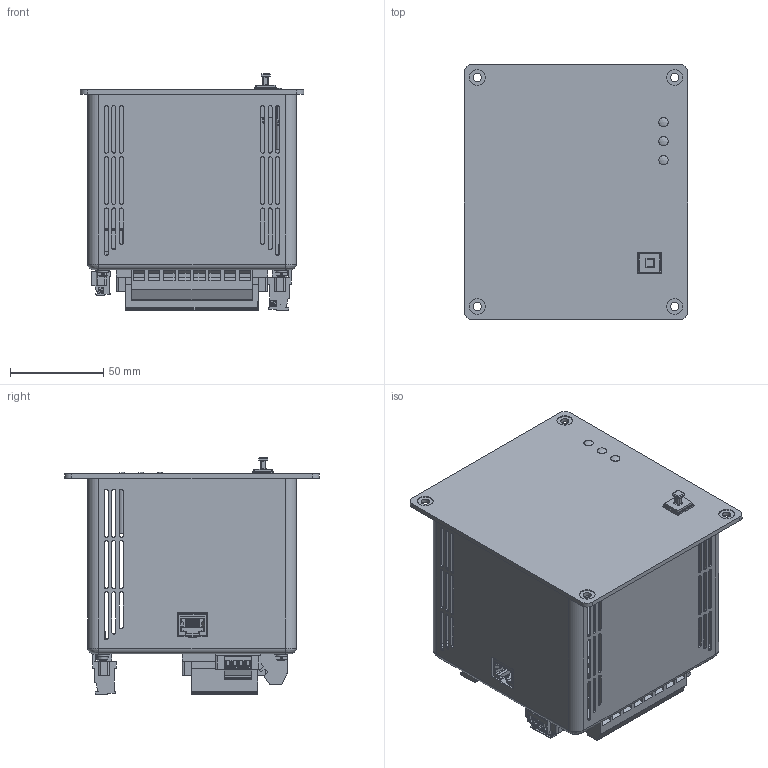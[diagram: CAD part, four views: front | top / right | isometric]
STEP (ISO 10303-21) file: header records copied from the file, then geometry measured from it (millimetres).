
FILE_DESCRIPTION(/* description */ (''),/* implementation_level */ '2;1');
FILE_NAME(/* name */ 'D:\WorkIMT\Project IMT\ЛЮТИК\ЛЮТИК Дешунт\3D на сайт\LUTIK 3D.stp',/* time_stamp */ '2024-05-22T14:00:00+03:00',/* author */ ('Admin'),/* organization */ (''),/* preprocessor_version */ 'ST-DEVELOPER v17.2',/* originating_system */ 'Autodesk Inventor 2019',/* authorisation */ '');
FILE_SCHEMA (('AUTOMOTIVE_DESIGN { 1 0 10303 214 3 1 1 }'));
Products named in the file (1): LUTIK 3D
Bounding box: 120 x 137 x 126.9 mm (x, y, z)
Volume: 179371.1 mm3; surface area: 178459.6 mm2
Topology: 7 solids, 14 shells, 3611 faces, 10127 edges, 6704 vertices
Faces by surface type: plane 2614, cylinder 746, cone 165, sphere 54, torus 28, bspline 4
Full cylindrical faces by diameter (mm): 0.457 x3, 1.6 x3, 1.75 x6, 2.459 x1, 2.5 x14, 2.75 x4, 2.8 x23, 2.9 x4, 3 x5, 3.2 x4, 3.5 x4, 3.783 x21, 3.8 x6, 3.9 x6, 4 x24, 4.12 x3, 4.5 x4, 4.7 x16, 5 x3, 7 x4, 8.5 x4
Entity records: 121590 total; most frequent: CARTESIAN_POINT 22782, ORIENTED_EDGE 20252, DIRECTION 19413, EDGE_CURVE 10126, LINE 7631, VECTOR 7631, VERTEX_POINT 6704, AXIS2_PLACEMENT_3D 5891
